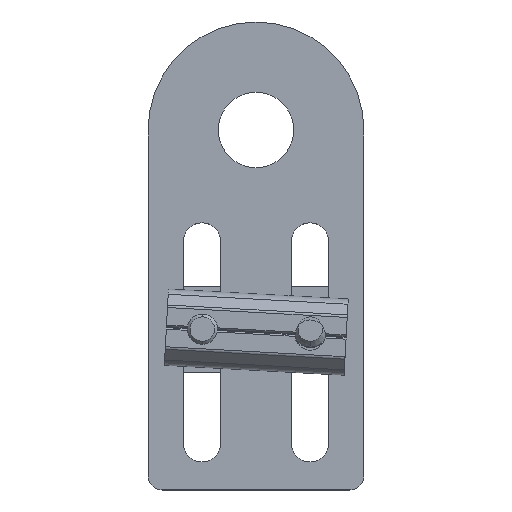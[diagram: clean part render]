
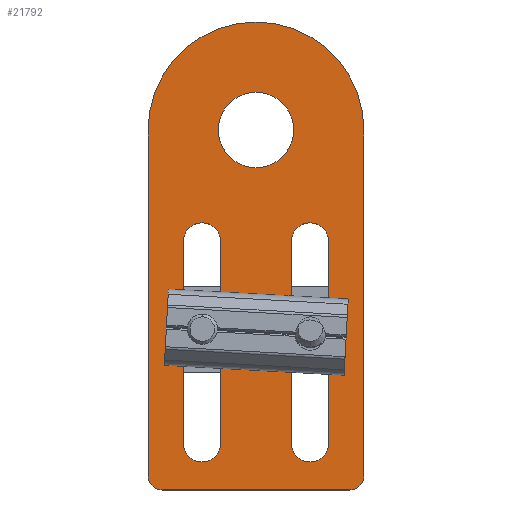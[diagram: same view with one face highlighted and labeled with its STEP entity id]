
A CAD part, top view. The second image highlights one B-rep face of the part: STEP entity #21792.
In plain terms, the highlighted planar face has unit normal (0, 0, 1).
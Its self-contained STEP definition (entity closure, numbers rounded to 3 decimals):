
#689 = DIRECTION ( 'NONE',  ( 0., 0., -1. ) ) ;
#721 = EDGE_LOOP ( 'NONE', ( #22003, #17400, #19837, #24955, #18353, #3600 ) ) ;
#1019 = CARTESIAN_POINT ( 'NONE',  ( -152.84, -45.754, 92.986 ) ) ;
#1036 = EDGE_CURVE ( 'NONE', #24668, #3310, #1498, .T. ) ;
#1078 = DIRECTION ( 'NONE',  ( -1., 0., 0. ) ) ;
#1205 = CARTESIAN_POINT ( 'NONE',  ( -158.04, -19.559, 92.986 ) ) ;
#1372 = EDGE_CURVE ( 'NONE', #6466, #17894, #14161, .T. ) ;
#1398 = VECTOR ( 'NONE', #5564, 1000. ) ;
#1465 = CARTESIAN_POINT ( 'NONE',  ( -153.19, -2.254, 92.986 ) ) ;
#1498 = LINE ( 'NONE', #21610, #5451 ) ;
#1717 = ORIENTED_EDGE ( 'NONE', *, *, #20452, .T. ) ;
#1932 = DIRECTION ( 'NONE',  ( 0., -1., 0. ) ) ;
#1938 = AXIS2_PLACEMENT_3D ( 'NONE', #24210, #12683, #1078 ) ;
#1968 = VECTOR ( 'NONE', #21827, 1000. ) ;
#2249 = EDGE_LOOP ( 'NONE', ( #11675, #16804, #24336, #1717 ) ) ;
#2269 = CIRCLE ( 'NONE', #1938, 2.6 ) ;
#3160 = EDGE_CURVE ( 'NONE', #22131, #5333, #12743, .T. ) ;
#3189 = CIRCLE ( 'NONE', #20247, 2. ) ;
#3256 = VERTEX_POINT ( 'NONE', #1465 ) ;
#3310 = VERTEX_POINT ( 'NONE', #5462 ) ;
#3341 = DIRECTION ( 'NONE',  ( 0., 0., 1. ) ) ;
#3347 = CARTESIAN_POINT ( 'NONE',  ( -160.94, -52.254, 92.986 ) ) ;
#3509 = AXIS2_PLACEMENT_3D ( 'NONE', #17464, #5937, #19402 ) ;
#3600 = ORIENTED_EDGE ( 'NONE', *, *, #1036, .T. ) ;
#3917 = VECTOR ( 'NONE', #17563, 1000. ) ;
#3934 = ORIENTED_EDGE ( 'NONE', *, *, #12552, .F. ) ;
#4283 = FACE_BOUND ( 'NONE', #21167, .T. ) ;
#4524 = CARTESIAN_POINT ( 'NONE',  ( -147.94, -52.254, 92.986 ) ) ;
#4897 = FACE_BOUND ( 'NONE', #8183, .T. ) ;
#4932 = VERTEX_POINT ( 'NONE', #23033 ) ;
#5333 = VERTEX_POINT ( 'NONE', #13958 ) ;
#5451 = VECTOR ( 'NONE', #21268, 1000. ) ;
#5462 = CARTESIAN_POINT ( 'NONE',  ( -162.94, -50.254, 92.986 ) ) ;
#5564 = DIRECTION ( 'NONE',  ( 0., 1., 0. ) ) ;
#5585 = EDGE_CURVE ( 'NONE', #20150, #11162, #3189, .T. ) ;
#5800 = VECTOR ( 'NONE', #5979, 1000. ) ;
#5881 = AXIS2_PLACEMENT_3D ( 'NONE', #9360, #22824, #11287 ) ;
#5937 = DIRECTION ( 'NONE',  ( 0., 0., -1. ) ) ;
#5945 = CARTESIAN_POINT ( 'NONE',  ( -160.94, -50.254, 92.986 ) ) ;
#5979 = DIRECTION ( 'NONE',  ( 0., 1., 0. ) ) ;
#5991 = DIRECTION ( 'NONE',  ( 0., 0., -1. ) ) ;
#6466 = VERTEX_POINT ( 'NONE', #16155 ) ;
#7038 = AXIS2_PLACEMENT_3D ( 'NONE', #8842, #22290, #10782 ) ;
#7316 = EDGE_CURVE ( 'NONE', #11162, #15630, #10956, .T. ) ;
#7538 = EDGE_CURVE ( 'NONE', #3256, #10438, #17838, .T. ) ;
#7642 = CARTESIAN_POINT ( 'NONE',  ( -147.94, -2.254, 92.986 ) ) ;
#7899 = DIRECTION ( 'NONE',  ( -1., 0., 0. ) ) ;
#7905 = LINE ( 'NONE', #17373, #13035 ) ;
#8183 = EDGE_LOOP ( 'NONE', ( #23822, #3934 ) ) ;
#8219 = EDGE_CURVE ( 'NONE', #3310, #15842, #16909, .T. ) ;
#8813 = FACE_OUTER_BOUND ( 'NONE', #721, .T. ) ;
#8842 = CARTESIAN_POINT ( 'NONE',  ( -162.94, -52.254, 92.986 ) ) ;
#8927 = DIRECTION ( 'NONE',  ( 0., 1., 0. ) ) ;
#9360 = CARTESIAN_POINT ( 'NONE',  ( -147.94, -2.254, 92.986 ) ) ;
#9369 = ORIENTED_EDGE ( 'NONE', *, *, #17777, .T. ) ;
#9574 = DIRECTION ( 'NONE',  ( -1., 0., 0. ) ) ;
#9995 = EDGE_CURVE ( 'NONE', #20421, #4932, #21279, .T. ) ;
#10104 = AXIS2_PLACEMENT_3D ( 'NONE', #12270, #689, #14213 ) ;
#10124 = CARTESIAN_POINT ( 'NONE',  ( -137.84, -45.754, 92.986 ) ) ;
#10438 = VERTEX_POINT ( 'NONE', #14661 ) ;
#10626 = CARTESIAN_POINT ( 'NONE',  ( -147.94, -2.254, 92.986 ) ) ;
#10782 = DIRECTION ( 'NONE',  ( 1., 0., 0. ) ) ;
#10869 = CIRCLE ( 'NONE', #21396, 5.25 ) ;
#10956 = LINE ( 'NONE', #19444, #5800 ) ;
#11162 = VERTEX_POINT ( 'NONE', #12702 ) ;
#11287 = DIRECTION ( 'NONE',  ( -1., 0., 0. ) ) ;
#11389 = EDGE_CURVE ( 'NONE', #21605, #21803, #7905, .T. ) ;
#11675 = ORIENTED_EDGE ( 'NONE', *, *, #1372, .T. ) ;
#11773 = ORIENTED_EDGE ( 'NONE', *, *, #22116, .T. ) ;
#11924 = CARTESIAN_POINT ( 'NONE',  ( -137.84, -19.559, 92.986 ) ) ;
#12270 = CARTESIAN_POINT ( 'NONE',  ( -140.44, -45.754, 92.986 ) ) ;
#12552 = EDGE_CURVE ( 'NONE', #10438, #3256, #10869, .T. ) ;
#12563 = DIRECTION ( 'NONE',  ( -1., 0., 0. ) ) ;
#12683 = DIRECTION ( 'NONE',  ( 0., 0., -1. ) ) ;
#12702 = CARTESIAN_POINT ( 'NONE',  ( -132.94, -50.254, 92.986 ) ) ;
#12743 = LINE ( 'NONE', #1205, #17849 ) ;
#12992 = AXIS2_PLACEMENT_3D ( 'NONE', #5945, #19411, #7899 ) ;
#13035 = VECTOR ( 'NONE', #1932, 1000. ) ;
#13170 = CARTESIAN_POINT ( 'NONE',  ( -143.04, -19.559, 92.986 ) ) ;
#13891 = ORIENTED_EDGE ( 'NONE', *, *, #3160, .T. ) ;
#13958 = CARTESIAN_POINT ( 'NONE',  ( -158.04, -17.754, 92.986 ) ) ;
#14057 = CARTESIAN_POINT ( 'NONE',  ( -152.84, -17.754, 92.986 ) ) ;
#14161 = LINE ( 'NONE', #11924, #3917 ) ;
#14213 = DIRECTION ( 'NONE',  ( -1., 0., 0. ) ) ;
#14661 = CARTESIAN_POINT ( 'NONE',  ( -142.69, -2.254, 92.986 ) ) ;
#14859 = CARTESIAN_POINT ( 'NONE',  ( -134.94, -50.254, 92.986 ) ) ;
#15630 = VERTEX_POINT ( 'NONE', #16219 ) ;
#15842 = VERTEX_POINT ( 'NONE', #3347 ) ;
#16155 = CARTESIAN_POINT ( 'NONE',  ( -137.84, -17.754, 92.986 ) ) ;
#16219 = CARTESIAN_POINT ( 'NONE',  ( -132.94, -2.254, 92.986 ) ) ;
#16290 = ORIENTED_EDGE ( 'NONE', *, *, #11389, .T. ) ;
#16347 = CIRCLE ( 'NONE', #23735, 2.6 ) ;
#16797 = DIRECTION ( 'NONE',  ( -1., 0., 0. ) ) ;
#16804 = ORIENTED_EDGE ( 'NONE', *, *, #24102, .T. ) ;
#16909 = CIRCLE ( 'NONE', #12992, 2. ) ;
#17373 = CARTESIAN_POINT ( 'NONE',  ( -152.84, -19.559, 92.986 ) ) ;
#17400 = ORIENTED_EDGE ( 'NONE', *, *, #20382, .T. ) ;
#17464 = CARTESIAN_POINT ( 'NONE',  ( -155.44, -45.754, 92.986 ) ) ;
#17529 = CARTESIAN_POINT ( 'NONE',  ( -155.44, -17.754, 92.986 ) ) ;
#17563 = DIRECTION ( 'NONE',  ( 0., -1., 0. ) ) ;
#17777 = EDGE_CURVE ( 'NONE', #5333, #21605, #16347, .T. ) ;
#17838 = CIRCLE ( 'NONE', #18103, 5.25 ) ;
#17849 = VECTOR ( 'NONE', #8927, 1000. ) ;
#17894 = VERTEX_POINT ( 'NONE', #10124 ) ;
#18103 = AXIS2_PLACEMENT_3D ( 'NONE', #10626, #24089, #12563 ) ;
#18353 = ORIENTED_EDGE ( 'NONE', *, *, #21348, .T. ) ;
#19237 = CARTESIAN_POINT ( 'NONE',  ( -134.94, -52.254, 92.986 ) ) ;
#19295 = CIRCLE ( 'NONE', #3509, 2.6 ) ;
#19402 = DIRECTION ( 'NONE',  ( -1., 0., 0. ) ) ;
#19411 = DIRECTION ( 'NONE',  ( 0., 0., 1. ) ) ;
#19444 = CARTESIAN_POINT ( 'NONE',  ( -132.94, -19.559, 92.986 ) ) ;
#19464 = DIRECTION ( 'NONE',  ( -1., 0., 0. ) ) ;
#19837 = ORIENTED_EDGE ( 'NONE', *, *, #5585, .T. ) ;
#20059 = CARTESIAN_POINT ( 'NONE',  ( -143.04, -45.754, 92.986 ) ) ;
#20150 = VERTEX_POINT ( 'NONE', #19237 ) ;
#20247 = AXIS2_PLACEMENT_3D ( 'NONE', #14859, #3341, #16797 ) ;
#20382 = EDGE_CURVE ( 'NONE', #15842, #20150, #22500, .T. ) ;
#20421 = VERTEX_POINT ( 'NONE', #20059 ) ;
#20452 = EDGE_CURVE ( 'NONE', #4932, #6466, #2269, .T. ) ;
#20867 = CIRCLE ( 'NONE', #10104, 2.6 ) ;
#21089 = DIRECTION ( 'NONE',  ( 0., 0., 1. ) ) ;
#21167 = EDGE_LOOP ( 'NONE', ( #13891, #9369, #16290, #11773 ) ) ;
#21233 = CARTESIAN_POINT ( 'NONE',  ( -158.04, -45.754, 92.986 ) ) ;
#21268 = DIRECTION ( 'NONE',  ( 0., -1., 0. ) ) ;
#21279 = LINE ( 'NONE', #13170, #1398 ) ;
#21348 = EDGE_CURVE ( 'NONE', #15630, #24668, #23882, .T. ) ;
#21396 = AXIS2_PLACEMENT_3D ( 'NONE', #7642, #21089, #9574 ) ;
#21605 = VERTEX_POINT ( 'NONE', #14057 ) ;
#21610 = CARTESIAN_POINT ( 'NONE',  ( -162.94, -19.559, 92.986 ) ) ;
#21792 = ADVANCED_FACE ( 'NONE', ( #24169, #4897, #4283, #8813 ), #24152, .T. ) ;
#21803 = VERTEX_POINT ( 'NONE', #1019 ) ;
#21827 = DIRECTION ( 'NONE',  ( 1., 0., 0. ) ) ;
#21904 = CARTESIAN_POINT ( 'NONE',  ( -162.94, -2.254, 92.986 ) ) ;
#22003 = ORIENTED_EDGE ( 'NONE', *, *, #8219, .T. ) ;
#22116 = EDGE_CURVE ( 'NONE', #21803, #22131, #19295, .T. ) ;
#22131 = VERTEX_POINT ( 'NONE', #21233 ) ;
#22290 = DIRECTION ( 'NONE',  ( 0., 0., 1. ) ) ;
#22500 = LINE ( 'NONE', #4524, #1968 ) ;
#22824 = DIRECTION ( 'NONE',  ( 0., 0., 1. ) ) ;
#23033 = CARTESIAN_POINT ( 'NONE',  ( -143.04, -17.754, 92.986 ) ) ;
#23735 = AXIS2_PLACEMENT_3D ( 'NONE', #17529, #5991, #19464 ) ;
#23822 = ORIENTED_EDGE ( 'NONE', *, *, #7538, .F. ) ;
#23882 = CIRCLE ( 'NONE', #5881, 15. ) ;
#24089 = DIRECTION ( 'NONE',  ( 0., 0., 1. ) ) ;
#24102 = EDGE_CURVE ( 'NONE', #17894, #20421, #20867, .T. ) ;
#24152 = PLANE ( 'NONE',  #7038 ) ;
#24169 = FACE_BOUND ( 'NONE', #2249, .T. ) ;
#24210 = CARTESIAN_POINT ( 'NONE',  ( -140.44, -17.754, 92.986 ) ) ;
#24336 = ORIENTED_EDGE ( 'NONE', *, *, #9995, .T. ) ;
#24668 = VERTEX_POINT ( 'NONE', #21904 ) ;
#24955 = ORIENTED_EDGE ( 'NONE', *, *, #7316, .T. ) ;
